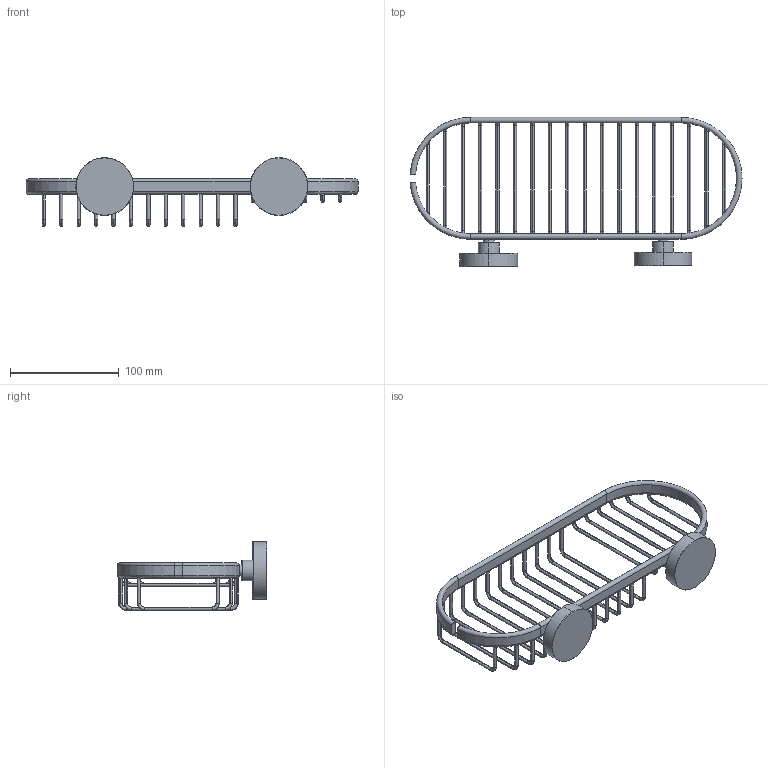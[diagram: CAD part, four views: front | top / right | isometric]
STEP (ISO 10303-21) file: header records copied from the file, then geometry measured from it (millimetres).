
FILE_DESCRIPTION(('THIS FILE CONTAINS SOME STEP INSTANCES'),'1');
FILE_NAME('HAR 019-light.stp','2015-10-27T15:13:28',('UNDEFINED'),('UNDEFINED'),'T-FLEX CAD STEP converter','T-FLEX CAD','');
FILE_SCHEMA(('CONFIG_CONTROL_DESIGN'));
Length unit declared in the file: metre
Products named in the file (1): har_019
Bounding box: 304.87 x 137 x 63 mm (x, y, z)
Volume: 122918.1 mm3; surface area: 61334.7 mm2
Topology: 1 solids, 1 shells, 260 faces, 628 edges, 374 vertices
Faces by surface type: cylinder 130, torus 78, cone 24, plane 18, bspline 10
Entity records: 14527 total; most frequent: CARTESIAN_POINT 9586, ORIENTED_EDGE 1256, DIRECTION 758, EDGE_CURVE 628, VERTEX_POINT 374, EDGE_LOOP 300, AXIS2_PLACEMENT_3D 296, ADVANCED_FACE 260
